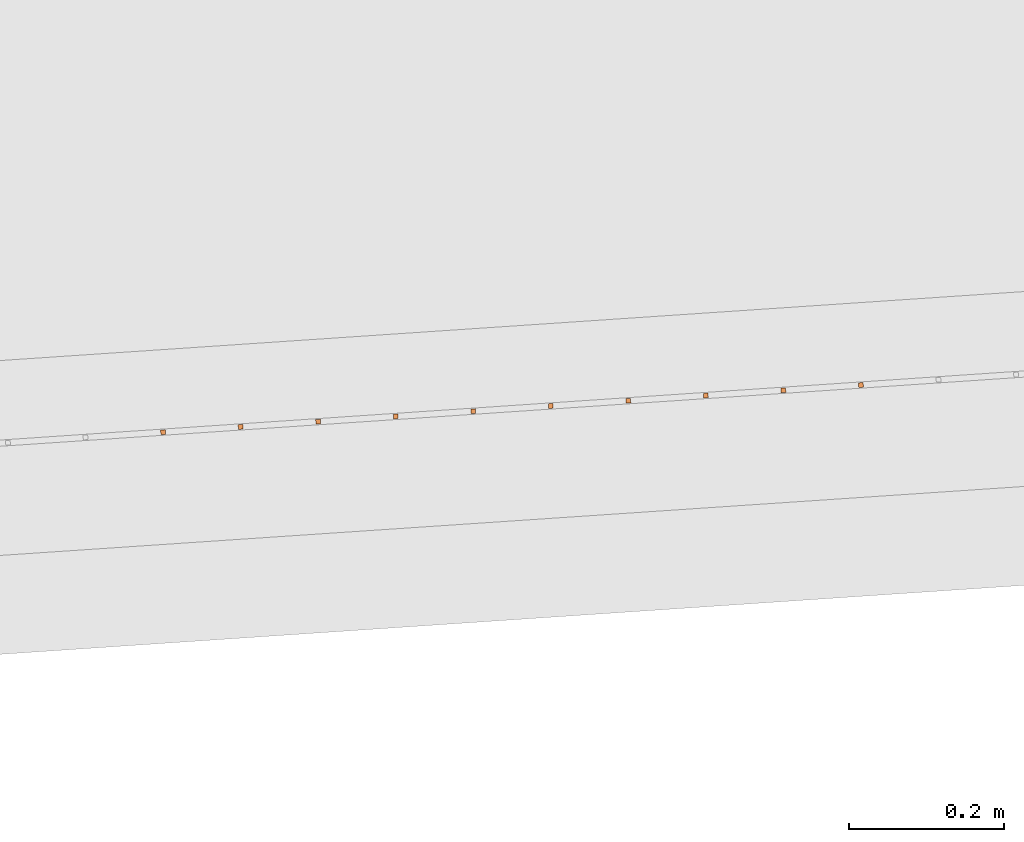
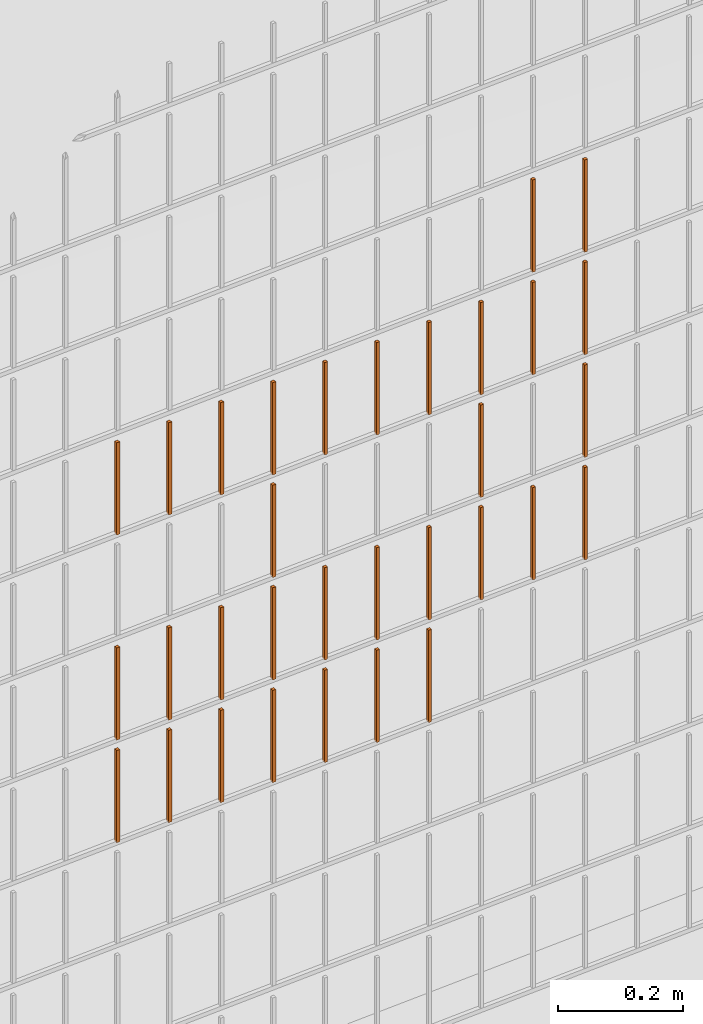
# One storey, part 326 of 1809: 32 proxies, 1 element without a shape of its own.
"""IFC2X3 building model written with IfcOpenShell, lengths in millimetres."""

from ifc_helpers import new_model, entity, si_unit, converted_unit, derived_unit, money_unit, direction, frame, origin_with_axes, place, context, subcontext, project, spatial, faceted_brep, source, transform, mapped, material, type_object, element, aggregate, save


model = new_model("IFC2X3")

# Units and contexts
model_context = context("Model", 3, precision=0.01, world=origin_with_axes(), true_north=direction((0.0, 1.0)))
body_context = subcontext(model_context, "Body", "Model", "MODEL_VIEW")
ifc_project = project(units=[si_unit("LENGTHUNIT", "METRE", prefix="MILLI"), si_unit("AREAUNIT", "SQUARE_METRE"), si_unit("VOLUMEUNIT", "CUBIC_METRE"), converted_unit("PLANEANGLEUNIT", "DEGREE", entity("IfcPlaneAngleMeasure", 0.0174532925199), si_unit("PLANEANGLEUNIT", "RADIAN"), dimensions=[0, 0, 0, 0, 0, 0, 0]), si_unit("SOLIDANGLEUNIT", "STERADIAN"), money_unit("EUR"), converted_unit("TIMEUNIT", "Year", entity("IfcTimeMeasure", 31556926.0), si_unit("TIMEUNIT", "SECOND"), dimensions=[0, 0, 1, 0, 0, 0, 0]), si_unit("MASSUNIT", "GRAM", prefix="KILO"), si_unit("THERMODYNAMICTEMPERATUREUNIT", "DEGREE_CELSIUS"), si_unit("LUMINOUSINTENSITYUNIT", "LUMEN"), si_unit("ENERGYUNIT", "JOULE", prefix="MEGA"), derived_unit("THERMALCONDUCTANCEUNIT", [(si_unit("POWERUNIT", "WATT"), 1), (si_unit("LENGTHUNIT", "METRE"), -1), (si_unit("THERMODYNAMICTEMPERATUREUNIT", "KELVIN"), -1)]), derived_unit("SPECIFICHEATCAPACITYUNIT", [(si_unit("ENERGYUNIT", "JOULE"), 1), (si_unit("MASSUNIT", "GRAM", prefix="KILO"), -1), (si_unit("THERMODYNAMICTEMPERATUREUNIT", "KELVIN"), -1)]), derived_unit("MASSDENSITYUNIT", [(si_unit("MASSUNIT", "GRAM", prefix="KILO"), 1), (si_unit("VOLUMEUNIT", "CUBIC_METRE"), -1)])], contexts=[model_context])

# Site, building, storey
site_placement = place(None, origin_with_axes())
site = spatial("IfcSite", under=ifc_project, at=site_placement, Name="Politse- ja Piirivalveameti ning Päästeameti ühishoone", CompositionType="ELEMENT")
building_placement = place(site_placement, origin_with_axes())
building = spatial("IfcBuilding", under=site, at=building_placement, Name="Politse- ja Piirivalveameti ning Päästeameti ühishoone", CompositionType="ELEMENT")
storey_placement = place(building_placement, origin_with_axes())
storey = spatial("IfcBuildingStorey", under=building, at=storey_placement, Name="Esimene korrus", CompositionType="ELEMENT", Elevation=0.0)

# Proxies
building_element_proxy_type_1 = type_object("IfcBuildingElementProxyType", Name="Railing Type", PredefinedType="NOTDEFINED")
proxy_1_placement = place(storey_placement, frame((89252.001212, -29183.4766571, 203.661247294), z_axis=(0.0, 0.0, 1.0), x_axis=(1.0, 0.0, 0.0)))
proxy_1 = element("IfcBuildingElementProxy", 1, at=proxy_1_placement, inside=storey, type_object=building_element_proxy_type_1, Name="PIIRDEAED")
ifc_material = material(Name="ET-03_Raud")
building_element_proxy_type_2 = type_object("IfcBuildingElementProxyType", Name="IfcBuildingElementProxy", PredefinedType="NOTDEFINED")
shared_shape_1 = source(origin_with_axes(), body_context, "Body", "Brep", [
    faceted_brep([(3.0, 3.0, -0.000752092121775), (-3.0, 3.0, -0.000752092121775), (-3.0, 3.0, 179.99926046), (3.0, 3.0, 179.99926046), (3.0, -3.0, 0.000752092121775), (-3.0, -3.0, 0.000752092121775), (-3.0, -3.0, 180.000764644), (3.0, -3.0, 180.000764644)], [[[0, 1, 2, 3]], [[0, 4, 5, 1]], [[1, 5, 6, 2]], [[3, 2, 6, 7]], [[4, 0, 3, 7]], [[5, 4, 7, 6]]]),
])
proxy_2_placement = place(proxy_1_placement, frame((-35745.2370775, -19712.2306285, 618.25272892), z_axis=(0.0, 0.0, 1.0), x_axis=(1.0, 0.0, 0.0)))
proxy_2 = element("IfcBuildingElementProxy", 2, at=proxy_2_placement, type_object=building_element_proxy_type_2, material=ifc_material, Name="BALUSTER - 001", context=body_context, shape_type="MappedRepresentation", body=[
    mapped(shared_shape_1, transform((0.0, 0.0, 0.0), x_axis=(-0.0673926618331, 0.997726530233, 0.0), y_axis=(-0.997726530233, -0.0673926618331, 0.0), z_axis=(0.0, 0.0, 1.0))),
])
shared_shape_2 = source(origin_with_axes(), body_context, "Body", "Brep", [
    faceted_brep([(3.0, 3.0, -0.000752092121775), (-3.0, 3.0, -0.000752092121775), (-3.0, 3.0, 179.99926046), (3.0, 3.0, 179.99926046), (3.0, -3.0, 0.000752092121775), (-3.0, -3.0, 0.000752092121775), (-3.0, -3.0, 180.000764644), (3.0, -3.0, 180.000764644)], [[[0, 1, 2, 3]], [[0, 4, 5, 1]], [[1, 5, 6, 2]], [[3, 2, 6, 7]], [[4, 0, 3, 7]], [[5, 4, 7, 6]]]),
])
proxy_3_placement = place(proxy_1_placement, frame((-35745.2370775, -19712.2306285, 818.25272892), z_axis=(0.0, 0.0, 1.0), x_axis=(1.0, 0.0, 0.0)))
proxy_3 = element("IfcBuildingElementProxy", 3, at=proxy_3_placement, type_object=building_element_proxy_type_2, material=ifc_material, Name="BALUSTER - 001", context=body_context, shape_type="MappedRepresentation", body=[
    mapped(shared_shape_2, transform((0.0, 0.0, 0.0), x_axis=(-0.0673926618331, 0.997726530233, 0.0), y_axis=(-0.997726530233, -0.0673926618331, 0.0), z_axis=(0.0, 0.0, 1.0))),
])
shared_shape_3 = source(origin_with_axes(), body_context, "Body", "Brep", [
    faceted_brep([(3.0, 3.0, -0.000752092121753), (-3.0, 3.0, -0.000752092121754), (-3.0, 3.0, 179.99926046), (3.0, 3.0, 179.99926046), (3.0, -3.0, 0.000752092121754), (-3.0, -3.0, 0.000752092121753), (-3.0, -3.0, 180.000764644), (3.0, -3.0, 180.000764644)], [[[0, 1, 2, 3]], [[0, 4, 5, 1]], [[1, 5, 6, 2]], [[3, 2, 6, 7]], [[4, 0, 3, 7]], [[5, 4, 7, 6]]]),
])
proxy_4_placement = place(proxy_1_placement, frame((-36044.5550366, -19732.4484271, 818.177519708), z_axis=(0.0, 0.0, 1.0), x_axis=(1.0, 0.0, 0.0)))
proxy_4 = element("IfcBuildingElementProxy", 4, at=proxy_4_placement, type_object=building_element_proxy_type_2, material=ifc_material, Name="BALUSTER - 001", context=body_context, shape_type="MappedRepresentation", body=[
    mapped(shared_shape_3, transform((0.0, 0.0, 0.0), x_axis=(-0.0673926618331, 0.997726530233, 0.0), y_axis=(-0.997726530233, -0.0673926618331, 0.0), z_axis=(0.0, 0.0, 1.0))),
])
shared_shape_4 = source(origin_with_axes(), body_context, "Body", "Brep", [
    faceted_brep([(3.0, 3.0, -0.000752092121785), (-3.0, 3.0, -0.000752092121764), (-3.0, 3.0, 179.99926046), (3.0, 3.0, 179.99926046), (3.0, -3.0, 0.000752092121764), (-3.0, -3.0, 0.000752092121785), (-3.0, -3.0, 180.000764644), (3.0, -3.0, 180.000764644)], [[[0, 1, 2, 3]], [[0, 4, 5, 1]], [[1, 5, 6, 2]], [[3, 2, 6, 7]], [[4, 0, 3, 7]], [[5, 4, 7, 6]]]),
])
proxy_5_placement = place(proxy_1_placement, frame((-36144.3276896, -19739.1876933, 618.15244997), z_axis=(0.0, 0.0, 1.0), x_axis=(1.0, 0.0, 0.0)))
proxy_5 = element("IfcBuildingElementProxy", 5, at=proxy_5_placement, type_object=building_element_proxy_type_2, material=ifc_material, Name="BALUSTER - 001", context=body_context, shape_type="MappedRepresentation", body=[
    mapped(shared_shape_4, transform((0.0, 0.0, 0.0), x_axis=(-0.0673926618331, 0.997726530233, 0.0), y_axis=(-0.997726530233, -0.0673926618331, 0.0), z_axis=(0.0, 0.0, 1.0))),
])
shared_shape_5 = source(origin_with_axes(), body_context, "Body", "Brep", [
    faceted_brep([(3.0, 3.0, -0.000752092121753), (-3.0, 3.0, -0.000752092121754), (-3.0, 3.0, 179.99926046), (3.0, 3.0, 179.99926046), (3.0, -3.0, 0.000752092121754), (-3.0, -3.0, 0.000752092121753), (-3.0, -3.0, 180.000764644), (3.0, -3.0, 180.000764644)], [[[0, 1, 2, 3]], [[0, 4, 5, 1]], [[1, 5, 6, 2]], [[3, 2, 6, 7]], [[4, 0, 3, 7]], [[5, 4, 7, 6]]]),
])
proxy_6_placement = place(proxy_1_placement, frame((-36044.5550366, -19732.4484271, 618.177519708), z_axis=(0.0, 0.0, 1.0), x_axis=(1.0, 0.0, 0.0)))
proxy_6 = element("IfcBuildingElementProxy", 6, at=proxy_6_placement, type_object=building_element_proxy_type_2, material=ifc_material, Name="BALUSTER - 001", context=body_context, shape_type="MappedRepresentation", body=[
    mapped(shared_shape_5, transform((0.0, 0.0, 0.0), x_axis=(-0.0673926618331, 0.997726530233, 0.0), y_axis=(-0.997726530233, -0.0673926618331, 0.0), z_axis=(0.0, 0.0, 1.0))),
])
shared_shape_6 = source(origin_with_axes(), body_context, "Body", "Brep", [
    faceted_brep([(3.0, 3.0, -0.000752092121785), (-3.0, 3.0, -0.000752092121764), (-3.0, 3.0, 179.99926046), (3.0, 3.0, 179.99926046), (3.0, -3.0, 0.000752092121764), (-3.0, -3.0, 0.000752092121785), (-3.0, -3.0, 180.000764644), (3.0, -3.0, 180.000764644)], [[[0, 1, 2, 3]], [[0, 4, 5, 1]], [[1, 5, 6, 2]], [[3, 2, 6, 7]], [[4, 0, 3, 7]], [[5, 4, 7, 6]]]),
])
proxy_7_placement = place(proxy_1_placement, frame((-36144.3276896, -19739.1876933, 818.15244997), z_axis=(0.0, 0.0, 1.0), x_axis=(1.0, 0.0, 0.0)))
proxy_7 = element("IfcBuildingElementProxy", 7, at=proxy_7_placement, type_object=building_element_proxy_type_2, material=ifc_material, Name="BALUSTER - 001", context=body_context, shape_type="MappedRepresentation", body=[
    mapped(shared_shape_6, transform((0.0, 0.0, 0.0), x_axis=(-0.0673926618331, 0.997726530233, 0.0), y_axis=(-0.997726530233, -0.0673926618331, 0.0), z_axis=(0.0, 0.0, 1.0))),
])
shared_shape_7 = source(origin_with_axes(), body_context, "Body", "Brep", [
    faceted_brep([(3.0, 3.0, -0.000752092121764), (-3.0, 3.0, -0.000752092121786), (-3.0, 3.0, 179.99926046), (3.0, 3.0, 179.99926046), (3.0, -3.0, 0.000752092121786), (-3.0, -3.0, 0.000752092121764), (-3.0, -3.0, 180.000764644), (3.0, -3.0, 180.000764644)], [[[0, 1, 2, 3]], [[0, 4, 5, 1]], [[1, 5, 6, 2]], [[3, 2, 6, 7]], [[4, 0, 3, 7]], [[5, 4, 7, 6]]]),
])
proxy_8_placement = place(proxy_1_placement, frame((-36044.5550366, -19732.4484271, 1218.17751971), z_axis=(0.0, 0.0, 1.0), x_axis=(1.0, 0.0, 0.0)))
proxy_8 = element("IfcBuildingElementProxy", 8, at=proxy_8_placement, type_object=building_element_proxy_type_2, material=ifc_material, Name="BALUSTER - 001", context=body_context, shape_type="MappedRepresentation", body=[
    mapped(shared_shape_7, transform((0.0, 0.0, 0.0), x_axis=(-0.0673926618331, 0.997726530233, 0.0), y_axis=(-0.997726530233, -0.0673926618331, 0.0), z_axis=(0.0, 0.0, 1.0))),
])
shared_shape_8 = source(origin_with_axes(), body_context, "Body", "Brep", [
    faceted_brep([(3.0, 3.0, -0.000752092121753), (-3.0, 3.0, -0.000752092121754), (-3.0, 3.0, 179.99926046), (3.0, 3.0, 179.99926046), (3.0, -3.0, 0.000752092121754), (-3.0, -3.0, 0.000752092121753), (-3.0, -3.0, 180.000764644), (3.0, -3.0, 180.000764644)], [[[0, 1, 2, 3]], [[0, 4, 5, 1]], [[1, 5, 6, 2]], [[3, 2, 6, 7]], [[4, 0, 3, 7]], [[5, 4, 7, 6]]]),
])
proxy_9_placement = place(proxy_1_placement, frame((-36144.3276896, -19739.1876933, 1218.15244997), z_axis=(0.0, 0.0, 1.0), x_axis=(1.0, 0.0, 0.0)))
proxy_9 = element("IfcBuildingElementProxy", 9, at=proxy_9_placement, type_object=building_element_proxy_type_2, material=ifc_material, Name="BALUSTER - 001", context=body_context, shape_type="MappedRepresentation", body=[
    mapped(shared_shape_8, transform((0.0, 0.0, 0.0), x_axis=(-0.0673926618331, 0.997726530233, 0.0), y_axis=(-0.997726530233, -0.0673926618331, 0.0), z_axis=(0.0, 0.0, 1.0))),
])
shared_shape_9 = source(origin_with_axes(), body_context, "Body", "Brep", [
    faceted_brep([(3.0, 3.0, -0.000752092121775), (-3.0, 3.0, -0.000752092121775), (-3.0, 3.0, 179.99926046), (3.0, 3.0, 179.99926046), (3.0, -3.0, 0.000752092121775), (-3.0, -3.0, 0.000752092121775), (-3.0, -3.0, 180.000764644), (3.0, -3.0, 180.000764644)], [[[0, 1, 2, 3]], [[0, 4, 5, 1]], [[1, 5, 6, 2]], [[3, 2, 6, 7]], [[4, 0, 3, 7]], [[5, 4, 7, 6]]]),
])
proxy_10_placement = place(proxy_1_placement, frame((-35445.9191185, -19692.01283, 1218.32793813), z_axis=(0.0, 0.0, 1.0), x_axis=(1.0, 0.0, 0.0)))
proxy_10 = element("IfcBuildingElementProxy", 10, at=proxy_10_placement, type_object=building_element_proxy_type_2, material=ifc_material, Name="BALUSTER - 001", context=body_context, shape_type="MappedRepresentation", body=[
    mapped(shared_shape_9, transform((0.0, 0.0, 0.0), x_axis=(-0.0673926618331, 0.997726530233, 0.0), y_axis=(-0.997726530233, -0.0673926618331, 0.0), z_axis=(0.0, 0.0, 1.0))),
])
shared_shape_10 = source(origin_with_axes(), body_context, "Body", "Brep", [
    faceted_brep([(3.0, 3.0, -0.000752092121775), (-3.0, 3.0, -0.000752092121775), (-3.0, 3.0, 179.99926046), (3.0, 3.0, 179.99926046), (3.0, -3.0, 0.000752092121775), (-3.0, -3.0, 0.000752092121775), (-3.0, -3.0, 180.000764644), (3.0, -3.0, 180.000764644)], [[[0, 1, 2, 3]], [[0, 4, 5, 1]], [[1, 5, 6, 2]], [[3, 2, 6, 7]], [[4, 0, 3, 7]], [[5, 4, 7, 6]]]),
])
proxy_11_placement = place(proxy_1_placement, frame((-35346.1464654, -19685.2735638, 1218.35300787), z_axis=(0.0, 0.0, 1.0), x_axis=(1.0, 0.0, 0.0)))
proxy_11 = element("IfcBuildingElementProxy", 11, at=proxy_11_placement, type_object=building_element_proxy_type_2, material=ifc_material, Name="BALUSTER - 001", context=body_context, shape_type="MappedRepresentation", body=[
    mapped(shared_shape_10, transform((0.0, 0.0, 0.0), x_axis=(-0.0673926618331, 0.997726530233, 0.0), y_axis=(-0.997726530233, -0.0673926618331, 0.0), z_axis=(0.0, 0.0, 1.0))),
])
shared_shape_11 = source(origin_with_axes(), body_context, "Body", "Brep", [
    faceted_brep([(3.0, 3.0, -0.000752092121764), (-3.0, 3.0, -0.000752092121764), (-3.0, 3.0, 179.99926046), (3.0, 3.0, 179.99926046), (3.0, -3.0, 0.000752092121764), (-3.0, -3.0, 0.000752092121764), (-3.0, -3.0, 180.000764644), (3.0, -3.0, 180.000764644)], [[[0, 1, 2, 3]], [[0, 4, 5, 1]], [[1, 5, 6, 2]], [[3, 2, 6, 7]], [[4, 0, 3, 7]], [[5, 4, 7, 6]]]),
])
proxy_12_placement = place(proxy_1_placement, frame((-35346.1464654, -19685.2735638, 818.35300787), z_axis=(0.0, 0.0, 1.0), x_axis=(1.0, 0.0, 0.0)))
proxy_12 = element("IfcBuildingElementProxy", 12, at=proxy_12_placement, type_object=building_element_proxy_type_2, material=ifc_material, Name="BALUSTER - 001", context=body_context, shape_type="MappedRepresentation", body=[
    mapped(shared_shape_11, transform((0.0, 0.0, 0.0), x_axis=(-0.0673926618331, 0.997726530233, 0.0), y_axis=(-0.997726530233, -0.0673926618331, 0.0), z_axis=(0.0, 0.0, 1.0))),
])
shared_shape_12 = source(origin_with_axes(), body_context, "Body", "Brep", [
    faceted_brep([(3.0, 3.0, -0.000752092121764), (-3.0, 3.0, -0.000752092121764), (-3.0, 3.0, 179.99926046), (3.0, 3.0, 179.99926046), (3.0, -3.0, 0.000752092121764), (-3.0, -3.0, 0.000752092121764), (-3.0, -3.0, 180.000764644), (3.0, -3.0, 180.000764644)], [[[0, 1, 2, 3]], [[0, 4, 5, 1]], [[1, 5, 6, 2]], [[3, 2, 6, 7]], [[4, 0, 3, 7]], [[5, 4, 7, 6]]]),
])
proxy_13_placement = place(proxy_1_placement, frame((-35944.7823836, -19725.7091609, 818.202589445), z_axis=(0.0, 0.0, 1.0), x_axis=(1.0, 0.0, 0.0)))
proxy_13 = element("IfcBuildingElementProxy", 13, at=proxy_13_placement, type_object=building_element_proxy_type_2, material=ifc_material, Name="BALUSTER - 001", context=body_context, shape_type="MappedRepresentation", body=[
    mapped(shared_shape_12, transform((0.0, 0.0, 0.0), x_axis=(-0.0673926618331, 0.997726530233, 0.0), y_axis=(-0.997726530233, -0.0673926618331, 0.0), z_axis=(0.0, 0.0, 1.0))),
])
shared_shape_13 = source(origin_with_axes(), body_context, "Body", "Brep", [
    faceted_brep([(3.0, 3.0, -0.000752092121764), (-3.0, 3.0, -0.000752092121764), (-3.0, 3.0, 179.99926046), (3.0, 3.0, 179.99926046), (3.0, -3.0, 0.000752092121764), (-3.0, -3.0, 0.000752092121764), (-3.0, -3.0, 180.000764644), (3.0, -3.0, 180.000764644)], [[[0, 1, 2, 3]], [[0, 4, 5, 1]], [[1, 5, 6, 2]], [[3, 2, 6, 7]], [[4, 0, 3, 7]], [[5, 4, 7, 6]]]),
])
proxy_14_placement = place(proxy_1_placement, frame((-35944.7823836, -19725.7091609, 618.202589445), z_axis=(0.0, 0.0, 1.0), x_axis=(1.0, 0.0, 0.0)))
proxy_14 = element("IfcBuildingElementProxy", 14, at=proxy_14_placement, type_object=building_element_proxy_type_2, material=ifc_material, Name="BALUSTER - 001", context=body_context, shape_type="MappedRepresentation", body=[
    mapped(shared_shape_13, transform((0.0, 0.0, 0.0), x_axis=(-0.0673926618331, 0.997726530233, 0.0), y_axis=(-0.997726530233, -0.0673926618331, 0.0), z_axis=(0.0, 0.0, 1.0))),
])
shared_shape_14 = source(origin_with_axes(), body_context, "Body", "Brep", [
    faceted_brep([(3.0, 3.0, -0.000752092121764), (-3.0, 3.0, -0.000752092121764), (-3.0, 3.0, 179.99926046), (3.0, 3.0, 179.99926046), (3.0, -3.0, 0.000752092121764), (-3.0, -3.0, 0.000752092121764), (-3.0, -3.0, 180.000764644), (3.0, -3.0, 180.000764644)], [[[0, 1, 2, 3]], [[0, 4, 5, 1]], [[1, 5, 6, 2]], [[3, 2, 6, 7]], [[4, 0, 3, 7]], [[5, 4, 7, 6]]]),
])
proxy_15_placement = place(proxy_1_placement, frame((-35246.3738124, -19678.5342976, 1218.37807761), z_axis=(0.0, 0.0, 1.0), x_axis=(1.0, 0.0, 0.0)))
proxy_15 = element("IfcBuildingElementProxy", 15, at=proxy_15_placement, type_object=building_element_proxy_type_2, material=ifc_material, Name="BALUSTER - 001", context=body_context, shape_type="MappedRepresentation", body=[
    mapped(shared_shape_14, transform((0.0, 0.0, 0.0), x_axis=(-0.0673926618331, 0.997726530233, 0.0), y_axis=(-0.997726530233, -0.0673926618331, 0.0), z_axis=(0.0, 0.0, 1.0))),
])
shared_shape_15 = source(origin_with_axes(), body_context, "Body", "Brep", [
    faceted_brep([(3.0, 3.0, -0.000752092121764), (-3.0, 3.0, -0.000752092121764), (-3.0, 3.0, 179.99926046), (3.0, 3.0, 179.99926046), (3.0, -3.0, 0.000752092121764), (-3.0, -3.0, 0.000752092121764), (-3.0, -3.0, 180.000764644), (3.0, -3.0, 180.000764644)], [[[0, 1, 2, 3]], [[0, 4, 5, 1]], [[1, 5, 6, 2]], [[3, 2, 6, 7]], [[4, 0, 3, 7]], [[5, 4, 7, 6]]]),
])
proxy_16_placement = place(proxy_1_placement, frame((-35845.0097306, -19718.9698947, 818.227659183), z_axis=(0.0, 0.0, 1.0), x_axis=(1.0, 0.0, 0.0)))
proxy_16 = element("IfcBuildingElementProxy", 16, at=proxy_16_placement, type_object=building_element_proxy_type_2, material=ifc_material, Name="BALUSTER - 001", context=body_context, shape_type="MappedRepresentation", body=[
    mapped(shared_shape_15, transform((0.0, 0.0, 0.0), x_axis=(-0.0673926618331, 0.997726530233, 0.0), y_axis=(-0.997726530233, -0.0673926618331, 0.0), z_axis=(0.0, 0.0, 1.0))),
])
shared_shape_16 = source(origin_with_axes(), body_context, "Body", "Brep", [
    faceted_brep([(3.0, 3.0, -0.000752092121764), (-3.0, 3.0, -0.000752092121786), (-3.0, 3.0, 179.99926046), (3.0, 3.0, 179.99926046), (3.0, -3.0, 0.000752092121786), (-3.0, -3.0, 0.000752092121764), (-3.0, -3.0, 180.000764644), (3.0, -3.0, 180.000764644)], [[[0, 1, 2, 3]], [[0, 4, 5, 1]], [[1, 5, 6, 2]], [[3, 2, 6, 7]], [[4, 0, 3, 7]], [[5, 4, 7, 6]]]),
])
proxy_17_placement = place(proxy_1_placement, frame((-35645.4644245, -19705.4913624, 618.277798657), z_axis=(0.0, 0.0, 1.0), x_axis=(1.0, 0.0, 0.0)))
proxy_17 = element("IfcBuildingElementProxy", 17, at=proxy_17_placement, type_object=building_element_proxy_type_2, material=ifc_material, Name="BALUSTER - 001", context=body_context, shape_type="MappedRepresentation", body=[
    mapped(shared_shape_16, transform((0.0, 0.0, 0.0), x_axis=(-0.0673926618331, 0.997726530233, 0.0), y_axis=(-0.997726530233, -0.0673926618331, 0.0), z_axis=(0.0, 0.0, 1.0))),
])
proxy_18_placement = place(proxy_1_placement, frame((-35445.9191185, -19692.01283, 818.327938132), z_axis=(0.0, 0.0, 1.0), x_axis=(1.0, 0.0, 0.0)))
proxy_18 = element("IfcBuildingElementProxy", 18, at=proxy_18_placement, type_object=building_element_proxy_type_2, material=ifc_material, Name="BALUSTER - 001", context=body_context, shape_type="MappedRepresentation", body=[
    mapped(shared_shape_16, transform((0.0, 0.0, 0.0), x_axis=(-0.0673926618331, 0.997726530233, 0.0), y_axis=(-0.997726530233, -0.0673926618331, 0.0), z_axis=(0.0, 0.0, 1.0))),
])
proxy_19_placement = place(proxy_1_placement, frame((-35545.6917715, -19698.7520962, 1218.30286839), z_axis=(0.0, 0.0, 1.0), x_axis=(1.0, 0.0, 0.0)))
proxy_19 = element("IfcBuildingElementProxy", 19, at=proxy_19_placement, type_object=building_element_proxy_type_2, material=ifc_material, Name="BALUSTER - 001", context=body_context, shape_type="MappedRepresentation", body=[
    mapped(shared_shape_16, transform((0.0, 0.0, 0.0), x_axis=(-0.0673926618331, 0.997726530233, 0.0), y_axis=(-0.997726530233, -0.0673926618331, 0.0), z_axis=(0.0, 0.0, 1.0))),
])
shared_shape_17 = source(origin_with_axes(), body_context, "Body", "Brep", [
    faceted_brep([(3.0, 3.0, -0.000752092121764), (-3.0, 3.0, -0.000752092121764), (-3.0, 3.0, 179.99926046), (3.0, 3.0, 179.99926046), (3.0, -3.0, 0.000752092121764), (-3.0, -3.0, 0.000752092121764), (-3.0, -3.0, 180.000764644), (3.0, -3.0, 180.000764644)], [[[0, 1, 2, 3]], [[0, 4, 5, 1]], [[1, 5, 6, 2]], [[3, 2, 6, 7]], [[4, 0, 3, 7]], [[5, 4, 7, 6]]]),
])
proxy_20_placement = place(proxy_1_placement, frame((-35845.0097306, -19718.9698947, 618.227659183), z_axis=(0.0, 0.0, 1.0), x_axis=(1.0, 0.0, 0.0)))
proxy_20 = element("IfcBuildingElementProxy", 20, at=proxy_20_placement, type_object=building_element_proxy_type_2, material=ifc_material, Name="BALUSTER - 001", context=body_context, shape_type="MappedRepresentation", body=[
    mapped(shared_shape_17, transform((0.0, 0.0, 0.0), x_axis=(-0.0673926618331, 0.997726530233, 0.0), y_axis=(-0.997726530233, -0.0673926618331, 0.0), z_axis=(0.0, 0.0, 1.0))),
])
shared_shape_18 = source(origin_with_axes(), body_context, "Body", "Brep", [
    faceted_brep([(3.0, 3.0, -0.000752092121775), (-3.0, 3.0, -0.000752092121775), (-3.0, 3.0, 179.99926046), (3.0, 3.0, 179.99926046), (3.0, -3.0, 0.000752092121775), (-3.0, -3.0, 0.000752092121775), (-3.0, -3.0, 180.000764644), (3.0, -3.0, 180.000764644)], [[[0, 1, 2, 3]], [[0, 4, 5, 1]], [[1, 5, 6, 2]], [[3, 2, 6, 7]], [[4, 0, 3, 7]], [[5, 4, 7, 6]]]),
])
proxy_21_placement = place(proxy_1_placement, frame((-35845.0097306, -19718.9698947, 1218.22765918), z_axis=(0.0, 0.0, 1.0), x_axis=(1.0, 0.0, 0.0)))
proxy_21 = element("IfcBuildingElementProxy", 21, at=proxy_21_placement, type_object=building_element_proxy_type_2, material=ifc_material, Name="BALUSTER - 001", context=body_context, shape_type="MappedRepresentation", body=[
    mapped(shared_shape_18, transform((0.0, 0.0, 0.0), x_axis=(-0.0673926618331, 0.997726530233, 0.0), y_axis=(-0.997726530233, -0.0673926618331, 0.0), z_axis=(0.0, 0.0, 1.0))),
])
shared_shape_19 = source(origin_with_axes(), body_context, "Body", "Brep", [
    faceted_brep([(3.0, 3.0, -0.000752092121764), (-3.0, 3.0, -0.000752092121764), (-3.0, 3.0, 179.99926046), (3.0, 3.0, 179.99926046), (3.0, -3.0, 0.000752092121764), (-3.0, -3.0, 0.000752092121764), (-3.0, -3.0, 180.000764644), (3.0, -3.0, 180.000764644)], [[[0, 1, 2, 3]], [[0, 4, 5, 1]], [[1, 5, 6, 2]], [[3, 2, 6, 7]], [[4, 0, 3, 7]], [[5, 4, 7, 6]]]),
])
proxy_22_placement = place(proxy_1_placement, frame((-35745.2370775, -19712.2306285, 1218.25272892), z_axis=(0.0, 0.0, 1.0), x_axis=(1.0, 0.0, 0.0)))
proxy_22 = element("IfcBuildingElementProxy", 22, at=proxy_22_placement, type_object=building_element_proxy_type_2, material=ifc_material, Name="BALUSTER - 001", context=body_context, shape_type="MappedRepresentation", body=[
    mapped(shared_shape_19, transform((0.0, 0.0, 0.0), x_axis=(-0.0673926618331, 0.997726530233, 0.0), y_axis=(-0.997726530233, -0.0673926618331, 0.0), z_axis=(0.0, 0.0, 1.0))),
])
shared_shape_20 = source(origin_with_axes(), body_context, "Body", "Brep", [
    faceted_brep([(3.0, 3.0, -0.000752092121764), (-3.0, 3.0, -0.000752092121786), (-3.0, 3.0, 179.99926046), (3.0, 3.0, 179.99926046), (3.0, -3.0, 0.000752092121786), (-3.0, -3.0, 0.000752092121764), (-3.0, -3.0, 180.000764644), (3.0, -3.0, 180.000764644)], [[[0, 1, 2, 3]], [[0, 4, 5, 1]], [[1, 5, 6, 2]], [[3, 2, 6, 7]], [[4, 0, 3, 7]], [[5, 4, 7, 6]]]),
])
proxy_23_placement = place(proxy_1_placement, frame((-35645.4644245, -19705.4913624, 818.277798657), z_axis=(0.0, 0.0, 1.0), x_axis=(1.0, 0.0, 0.0)))
proxy_23 = element("IfcBuildingElementProxy", 23, at=proxy_23_placement, type_object=building_element_proxy_type_2, material=ifc_material, Name="BALUSTER - 001", context=body_context, shape_type="MappedRepresentation", body=[
    mapped(shared_shape_20, transform((0.0, 0.0, 0.0), x_axis=(-0.0673926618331, 0.997726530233, 0.0), y_axis=(-0.997726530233, -0.0673926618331, 0.0), z_axis=(0.0, 0.0, 1.0))),
])
shared_shape_21 = source(origin_with_axes(), body_context, "Body", "Brep", [
    faceted_brep([(3.0, 3.0, -0.000752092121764), (-3.0, 3.0, -0.000752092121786), (-3.0, 3.0, 179.99926046), (3.0, 3.0, 179.99926046), (3.0, -3.0, 0.000752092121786), (-3.0, -3.0, 0.000752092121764), (-3.0, -3.0, 180.000764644), (3.0, -3.0, 180.000764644)], [[[0, 1, 2, 3]], [[0, 4, 5, 1]], [[1, 5, 6, 2]], [[3, 2, 6, 7]], [[4, 0, 3, 7]], [[5, 4, 7, 6]]]),
])
proxy_24_placement = place(proxy_1_placement, frame((-35645.4644245, -19705.4913624, 1218.27779866), z_axis=(0.0, 0.0, 1.0), x_axis=(1.0, 0.0, 0.0)))
proxy_24 = element("IfcBuildingElementProxy", 24, at=proxy_24_placement, type_object=building_element_proxy_type_2, material=ifc_material, Name="BALUSTER - 001", context=body_context, shape_type="MappedRepresentation", body=[
    mapped(shared_shape_21, transform((0.0, 0.0, 0.0), x_axis=(-0.0673926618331, 0.997726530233, 0.0), y_axis=(-0.997726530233, -0.0673926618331, 0.0), z_axis=(0.0, 0.0, 1.0))),
])
shared_shape_22 = source(origin_with_axes(), body_context, "Body", "Brep", [
    faceted_brep([(3.0, 3.0, -0.000752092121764), (-3.0, 3.0, -0.000752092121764), (-3.0, 3.0, 179.99926046), (3.0, 3.0, 179.99926046), (3.0, -3.0, 0.000752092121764), (-3.0, -3.0, 0.000752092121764), (-3.0, -3.0, 180.000764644), (3.0, -3.0, 180.000764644)], [[[0, 1, 2, 3]], [[0, 4, 5, 1]], [[1, 5, 6, 2]], [[3, 2, 6, 7]], [[4, 0, 3, 7]], [[5, 4, 7, 6]]]),
])
proxy_25_placement = place(proxy_1_placement, frame((-35246.3738124, -19678.5342976, 1418.37807761), z_axis=(0.0, 0.0, 1.0), x_axis=(1.0, 0.0, 0.0)))
proxy_25 = element("IfcBuildingElementProxy", 25, at=proxy_25_placement, type_object=building_element_proxy_type_2, material=ifc_material, Name="BALUSTER - 001", context=body_context, shape_type="MappedRepresentation", body=[
    mapped(shared_shape_22, transform((0.0, 0.0, 0.0), x_axis=(-0.0673926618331, 0.997726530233, 0.0), y_axis=(-0.997726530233, -0.0673926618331, 0.0), z_axis=(0.0, 0.0, 1.0))),
])
shared_shape_23 = source(origin_with_axes(), body_context, "Body", "Brep", [
    faceted_brep([(3.0, 3.0, -0.000752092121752), (-3.0, 3.0, -0.000752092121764), (-3.00000000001, 2.99999999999, 179.99926046), (2.99999999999, 2.99999999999, 179.99926046), (3.0, -3.0, 0.000752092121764), (-3.0, -3.0, 0.000752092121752), (-3.00000000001, -3.00000000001, 180.000764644), (2.99999999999, -3.00000000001, 180.000764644)], [[[0, 1, 2, 3]], [[0, 4, 5, 1]], [[1, 5, 6, 2]], [[3, 2, 6, 7]], [[4, 0, 3, 7]], [[5, 4, 7, 6]]]),
])
proxy_26_placement = place(proxy_1_placement, frame((-35445.9191185, -19692.01283, 1018.32793813), z_axis=(0.0, 0.0, 1.0), x_axis=(1.0, 0.0, 0.0)))
proxy_26 = element("IfcBuildingElementProxy", 26, at=proxy_26_placement, type_object=building_element_proxy_type_2, material=ifc_material, Name="BALUSTER - 001", context=body_context, shape_type="MappedRepresentation", body=[
    mapped(shared_shape_23, transform((0.0, 0.0, 0.0), x_axis=(-0.0673926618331, 0.997726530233, 0.0), y_axis=(-0.997726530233, -0.0673926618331, 0.0), z_axis=(0.0, 0.0, 1.0))),
])
shared_shape_24 = source(origin_with_axes(), body_context, "Body", "Brep", [
    faceted_brep([(3.0, 3.0, -0.000752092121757), (-3.0, 3.0, -0.000752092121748), (-3.00000000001, 2.99999999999, 179.99926046), (2.99999999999, 2.99999999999, 179.99926046), (3.0, -3.0, 0.000752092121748), (-3.0, -3.0, 0.000752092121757), (-3.00000000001, -3.00000000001, 180.000764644), (2.99999999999, -3.00000000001, 180.000764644)], [[[0, 1, 2, 3]], [[0, 4, 5, 1]], [[1, 5, 6, 2]], [[3, 2, 6, 7]], [[4, 0, 3, 7]], [[5, 4, 7, 6]]]),
])
proxy_27_placement = place(proxy_1_placement, frame((-35845.0097306, -19718.9698947, 1018.22765918), z_axis=(0.0, 0.0, 1.0), x_axis=(1.0, 0.0, 0.0)))
proxy_27 = element("IfcBuildingElementProxy", 27, at=proxy_27_placement, type_object=building_element_proxy_type_2, material=ifc_material, Name="BALUSTER - 001", context=body_context, shape_type="MappedRepresentation", body=[
    mapped(shared_shape_24, transform((0.0, 0.0, 0.0), x_axis=(-0.0673926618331, 0.997726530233, 0.0), y_axis=(-0.997726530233, -0.0673926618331, 0.0), z_axis=(0.0, 0.0, 1.0))),
])
shared_shape_25 = source(origin_with_axes(), body_context, "Body", "Brep", [
    faceted_brep([(3.0, 3.0, -0.000752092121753), (-3.0, 3.0, -0.000752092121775), (-3.0, 3.0, 179.99926046), (3.0, 3.0, 179.99926046), (3.0, -3.0, 0.000752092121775), (-3.0, -3.0, 0.000752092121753), (-3.0, -3.0, 180.000764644), (3.0, -3.0, 180.000764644)], [[[0, 1, 2, 3]], [[0, 4, 5, 1]], [[1, 5, 6, 2]], [[3, 2, 6, 7]], [[4, 0, 3, 7]], [[5, 4, 7, 6]]]),
])
proxy_28_placement = place(proxy_1_placement, frame((-35246.3738124, -19678.5342976, 818.378077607), z_axis=(0.0, 0.0, 1.0), x_axis=(1.0, 0.0, 0.0)))
proxy_28 = element("IfcBuildingElementProxy", 28, at=proxy_28_placement, type_object=building_element_proxy_type_2, material=ifc_material, Name="BALUSTER - 001", context=body_context, shape_type="MappedRepresentation", body=[
    mapped(shared_shape_25, transform((0.0, 0.0, 0.0), x_axis=(-0.0673926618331, 0.997726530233, 0.0), y_axis=(-0.997726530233, -0.0673926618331, 0.0), z_axis=(0.0, 0.0, 1.0))),
])
proxy_29_placement = place(proxy_1_placement, frame((-35944.7823836, -19725.7091609, 1218.20258945), z_axis=(0.0, 0.0, 1.0), x_axis=(1.0, 0.0, 0.0)))
proxy_29 = element("IfcBuildingElementProxy", 29, at=proxy_29_placement, type_object=building_element_proxy_type_2, material=ifc_material, Name="BALUSTER - 001", context=body_context, shape_type="MappedRepresentation", body=[
    mapped(shared_shape_25, transform((0.0, 0.0, 0.0), x_axis=(-0.0673926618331, 0.997726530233, 0.0), y_axis=(-0.997726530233, -0.0673926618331, 0.0), z_axis=(0.0, 0.0, 1.0))),
])
shared_shape_26 = source(origin_with_axes(), body_context, "Body", "Brep", [
    faceted_brep([(3.0, 3.0, -0.000752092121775), (-3.0, 3.0, -0.000752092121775), (-3.0, 3.0, 179.99926046), (3.0, 3.0, 179.99926046), (3.0, -3.0, 0.000752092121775), (-3.0, -3.0, 0.000752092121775), (-3.0, -3.0, 180.000764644), (3.0, -3.0, 180.000764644)], [[[0, 1, 2, 3]], [[0, 4, 5, 1]], [[1, 5, 6, 2]], [[3, 2, 6, 7]], [[4, 0, 3, 7]], [[5, 4, 7, 6]]]),
])
proxy_30_placement = place(proxy_1_placement, frame((-35346.1464654, -19685.2735638, 1418.35300787), z_axis=(0.0, 0.0, 1.0), x_axis=(1.0, 0.0, 0.0)))
proxy_30 = element("IfcBuildingElementProxy", 30, at=proxy_30_placement, type_object=building_element_proxy_type_2, material=ifc_material, Name="BALUSTER - 001", context=body_context, shape_type="MappedRepresentation", body=[
    mapped(shared_shape_26, transform((0.0, 0.0, 0.0), x_axis=(-0.0673926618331, 0.997726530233, 0.0), y_axis=(-0.997726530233, -0.0673926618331, 0.0), z_axis=(0.0, 0.0, 1.0))),
])
shared_shape_27 = source(origin_with_axes(), body_context, "Body", "Brep", [
    faceted_brep([(3.0, 3.0, -0.000752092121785), (-3.0, 3.0, -0.000752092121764), (-3.0, 3.0, 179.99926046), (3.0, 3.0, 179.99926046), (3.0, -3.0, 0.000752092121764), (-3.0, -3.0, 0.000752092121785), (-3.0, -3.0, 180.000764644), (3.0, -3.0, 180.000764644)], [[[0, 1, 2, 3]], [[0, 4, 5, 1]], [[1, 5, 6, 2]], [[3, 2, 6, 7]], [[4, 0, 3, 7]], [[5, 4, 7, 6]]]),
])
proxy_31_placement = place(proxy_1_placement, frame((-35545.6917715, -19698.7520962, 818.302868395), z_axis=(0.0, 0.0, 1.0), x_axis=(1.0, 0.0, 0.0)))
proxy_31 = element("IfcBuildingElementProxy", 31, at=proxy_31_placement, type_object=building_element_proxy_type_2, material=ifc_material, Name="BALUSTER - 001", context=body_context, shape_type="MappedRepresentation", body=[
    mapped(shared_shape_27, transform((0.0, 0.0, 0.0), x_axis=(-0.0673926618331, 0.997726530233, 0.0), y_axis=(-0.997726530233, -0.0673926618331, 0.0), z_axis=(0.0, 0.0, 1.0))),
])
shared_shape_28 = source(origin_with_axes(), body_context, "Body", "Brep", [
    faceted_brep([(3.0, 3.0, -0.000752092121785), (-3.0, 3.0, -0.000752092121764), (-3.0, 3.0, 179.99926046), (3.0, 3.0, 179.99926046), (3.0, -3.0, 0.000752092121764), (-3.0, -3.0, 0.000752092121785), (-3.0, -3.0, 180.000764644), (3.0, -3.0, 180.000764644)], [[[0, 1, 2, 3]], [[0, 4, 5, 1]], [[1, 5, 6, 2]], [[3, 2, 6, 7]], [[4, 0, 3, 7]], [[5, 4, 7, 6]]]),
])
proxy_32_placement = place(proxy_1_placement, frame((-35545.6917715, -19698.7520962, 618.302868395), z_axis=(0.0, 0.0, 1.0), x_axis=(1.0, 0.0, 0.0)))
proxy_32 = element("IfcBuildingElementProxy", 32, at=proxy_32_placement, type_object=building_element_proxy_type_2, material=ifc_material, Name="BALUSTER - 001", context=body_context, shape_type="MappedRepresentation", body=[
    mapped(shared_shape_28, transform((0.0, 0.0, 0.0), x_axis=(-0.0673926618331, 0.997726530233, 0.0), y_axis=(-0.997726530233, -0.0673926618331, 0.0), z_axis=(0.0, 0.0, 1.0))),
])
shared_shape_29 = source(origin_with_axes(), body_context, "Body", "Brep", [
    faceted_brep([(3.0, 3.0, -0.000752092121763), (-3.0, 3.0, -0.000752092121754), (-3.00000000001, 2.99999999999, 179.99926046), (2.99999999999, 2.99999999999, 179.99926046), (3.0, -3.0, 0.000752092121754), (-3.0, -3.0, 0.000752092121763), (-3.00000000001, -3.00000000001, 180.000764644), (2.99999999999, -3.00000000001, 180.000764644)], [[[0, 1, 2, 3]], [[0, 4, 5, 1]], [[1, 5, 6, 2]], [[3, 2, 6, 7]], [[4, 0, 3, 7]], [[5, 4, 7, 6]]]),
])
proxy_33_placement = place(proxy_1_placement, frame((-35246.3738124, -19678.5342976, 1018.37807761), z_axis=(0.0, 0.0, 1.0), x_axis=(1.0, 0.0, 0.0)))
proxy_33 = element("IfcBuildingElementProxy", 33, at=proxy_33_placement, type_object=building_element_proxy_type_2, material=ifc_material, Name="BALUSTER - 001", context=body_context, shape_type="MappedRepresentation", body=[
    mapped(shared_shape_29, transform((0.0, 0.0, 0.0), x_axis=(-0.0673926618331, 0.997726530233, 0.0), y_axis=(-0.997726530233, -0.0673926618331, 0.0), z_axis=(0.0, 0.0, 1.0))),
])
aggregate(proxy_1, [proxy_32, proxy_17, proxy_2, proxy_20, proxy_14, proxy_6, proxy_5, proxy_28, proxy_12, proxy_18, proxy_31, proxy_23, proxy_3, proxy_16, proxy_13, proxy_4, proxy_7, proxy_33, proxy_26, proxy_27, proxy_15, proxy_11, proxy_10, proxy_19, proxy_24, proxy_22, proxy_21, proxy_29, proxy_8, proxy_9, proxy_25, proxy_30])

save(model, "model.ifc")
